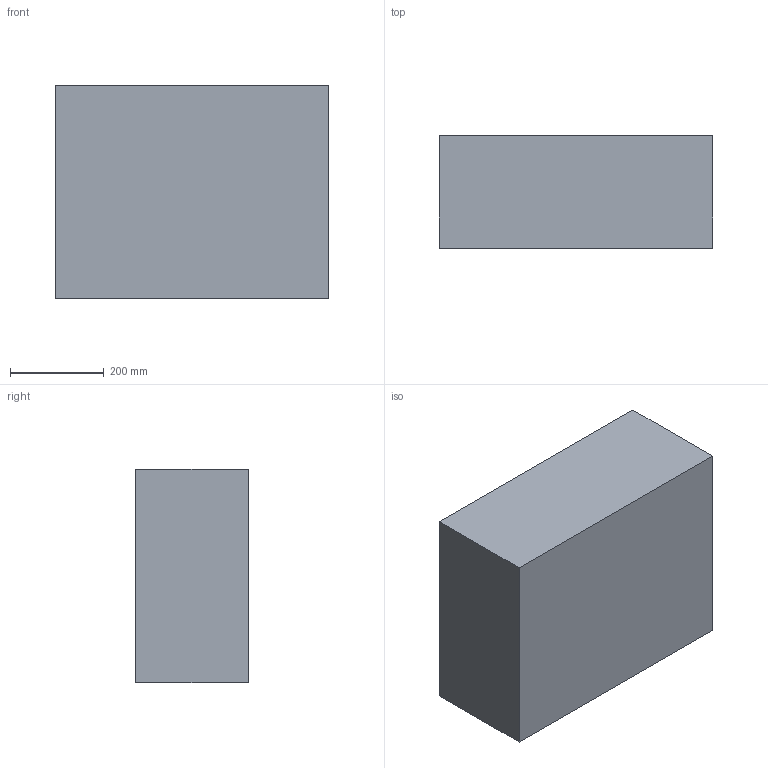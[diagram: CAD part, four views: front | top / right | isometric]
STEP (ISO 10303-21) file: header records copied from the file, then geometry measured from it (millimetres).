
FILE_DESCRIPTION (( 'STEP AP214' ), '1' );
FILE_NAME ('1610 Bottom EU case..STEP', '2016-02-29T20:00:22', ( '' ), ( '' ), 'SwSTEP 2.0', 'SolidWorks 2016', '' );
FILE_SCHEMA (( 'AUTOMOTIVE_DESIGN' ));
Products named in the file (1): 1610 Bottom EU case.
Bounding box: 585.21 x 241.3 x 456.43 mm (x, y, z)
Volume: 7523804.7 mm3; surface area: 2767586.6 mm2
Topology: 2 solids, 2 shells, 1504 faces, 3838 edges, 2383 vertices
Faces by surface type: bspline 586, cylinder 539, plane 361, cone 18
Entity records: 116440 total; most frequent: CARTESIAN_POINT 86082, ORIENTED_EDGE 7644, DIRECTION 4502, EDGE_CURVE 3822, VERTEX_POINT 2379, AXIS2_PLACEMENT_3D 1607, EDGE_LOOP 1557, B_SPLINE_CURVE_WITH_KNOTS 1557
